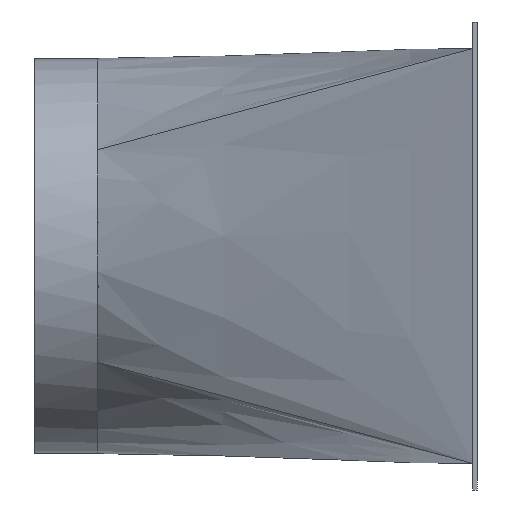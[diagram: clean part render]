
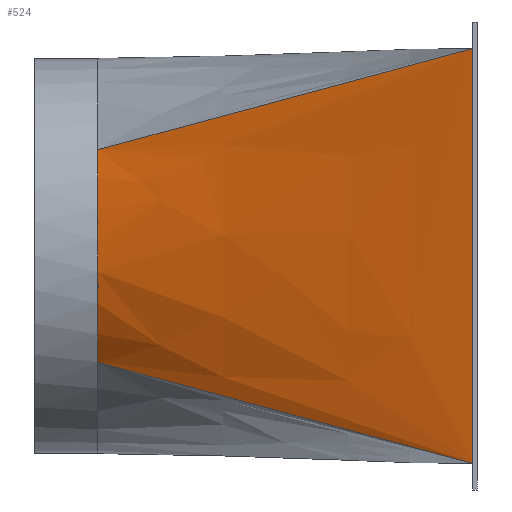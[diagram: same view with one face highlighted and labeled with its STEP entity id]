
A CAD part, left-side view. The second image highlights one B-rep face of the part: STEP entity #524.
In plain terms, the highlighted free-form (B-spline) face has degree [3, 3] with [7, 4] control points.
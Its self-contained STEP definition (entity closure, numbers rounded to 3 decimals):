
#22=B_SPLINE_SURFACE_WITH_KNOTS('',3,3,((#1476,#1477,#1478,#1479),(#1480,
#1481,#1482,#1483),(#1484,#1485,#1486,#1487),(#1488,#1489,#1490,#1491),
(#1492,#1493,#1494,#1495),(#1496,#1497,#1498,#1499),(#1500,#1501,#1502,
#1503)),.UNSPECIFIED.,.F.,.F.,.F.,(4,1,1,1,4),(4,4),(0.,0.286,
0.571,0.857,1.),(0.012,1.),
 .UNSPECIFIED.);
#26=B_SPLINE_CURVE_WITH_KNOTS('',3,(#795,#796,#797,#798,#799,#800,#801,
#802,#803,#804,#805,#806,#807),.UNSPECIFIED.,.F.,.F.,(4,3,3,3,4),(-26.433,
-18.881,-11.328,-3.776,0.),.UNSPECIFIED.);
#93=FACE_OUTER_BOUND('',#131,.T.);
#131=EDGE_LOOP('',(#489,#490,#491,#492));
#161=LINE('',#1209,#195);
#165=LINE('',#1475,#199);
#195=VECTOR('',#667,268.555);
#199=VECTOR('',#691,268.555);
#218=CIRCLE('',#579,125.);
#236=VERTEX_POINT('',#735);
#238=VERTEX_POINT('',#772);
#262=VERTEX_POINT('',#1207);
#270=VERTEX_POINT('',#1430);
#294=EDGE_CURVE('',#236,#238,#26,.T.);
#329=EDGE_CURVE('',#238,#262,#161,.T.);
#343=EDGE_CURVE('',#270,#262,#218,.T.);
#344=EDGE_CURVE('',#236,#270,#165,.T.);
#489=ORIENTED_EDGE('',*,*,#294,.T.);
#490=ORIENTED_EDGE('',*,*,#329,.T.);
#491=ORIENTED_EDGE('',*,*,#343,.F.);
#492=ORIENTED_EDGE('',*,*,#344,.F.);
#524=ADVANCED_FACE('',(#93),#22,.T.);
#579=AXIS2_PLACEMENT_3D('',#1432,#685,#686);
#667=DIRECTION('',(0.378,0.894,-0.241));
#685=DIRECTION('center_axis',(0.,1.,0.));
#686=DIRECTION('ref_axis',(1.,0.,0.));
#691=DIRECTION('',(0.378,0.894,0.241));
#735=CARTESIAN_POINT('',(-205.73,3.,-131.19));
#772=CARTESIAN_POINT('',(-205.73,3.,131.19));
#795=CARTESIAN_POINT('Ctrl Pts',(-205.73,3.,-131.19));
#796=CARTESIAN_POINT('Ctrl Pts',(-205.821,3.,-106.219));
#797=CARTESIAN_POINT('Ctrl Pts',(-205.888,3.,-81.233));
#798=CARTESIAN_POINT('Ctrl Pts',(-205.929,3.,-56.241));
#799=CARTESIAN_POINT('Ctrl Pts',(-205.97,3.,-31.248));
#800=CARTESIAN_POINT('Ctrl Pts',(-205.984,3.,-6.249));
#801=CARTESIAN_POINT('Ctrl Pts',(-205.97,3.,18.748));
#802=CARTESIAN_POINT('Ctrl Pts',(-205.956,3.,43.745));
#803=CARTESIAN_POINT('Ctrl Pts',(-205.915,3.,68.74));
#804=CARTESIAN_POINT('Ctrl Pts',(-205.848,3.,93.723));
#805=CARTESIAN_POINT('Ctrl Pts',(-205.815,3.,106.215));
#806=CARTESIAN_POINT('Ctrl Pts',(-205.775,3.,118.705));
#807=CARTESIAN_POINT('Ctrl Pts',(-205.73,3.,131.19));
#1207=CARTESIAN_POINT('',(-105.395,240.,67.208));
#1209=CARTESIAN_POINT('',(-207.,0.,132.));
#1430=CARTESIAN_POINT('',(-105.395,240.,-67.208));
#1432=CARTESIAN_POINT('Origin',(0.,240.,0.));
#1475=CARTESIAN_POINT('',(-207.,0.,-132.));
#1476=CARTESIAN_POINT('Ctrl Pts',(-205.73,3.,-131.19));
#1477=CARTESIAN_POINT('Ctrl Pts',(-172.285,82.,-109.863));
#1478=CARTESIAN_POINT('Ctrl Pts',(-138.84,161.,-88.536));
#1479=CARTESIAN_POINT('Ctrl Pts',(-105.395,240.,-67.208));
#1480=CARTESIAN_POINT('Ctrl Pts',(-205.821,3.,-106.219));
#1481=CARTESIAN_POINT('Ctrl Pts',(-174.769,82.,-89.418));
#1482=CARTESIAN_POINT('Ctrl Pts',(-143.714,161.,-72.614));
#1483=CARTESIAN_POINT('Ctrl Pts',(-112.662,240.,-55.812));
#1484=CARTESIAN_POINT('Ctrl Pts',(-205.956,3.,-56.247));
#1485=CARTESIAN_POINT('Ctrl Pts',(-178.459,82.,-47.713));
#1486=CARTESIAN_POINT('Ctrl Pts',(-150.962,161.,-39.179));
#1487=CARTESIAN_POINT('Ctrl Pts',(-123.465,240.,-30.645));
#1488=CARTESIAN_POINT('Ctrl Pts',(-205.997,3.,18.75));
#1489=CARTESIAN_POINT('Ctrl Pts',(-179.597,82.,15.935));
#1490=CARTESIAN_POINT('Ctrl Pts',(-153.196,161.,13.121));
#1491=CARTESIAN_POINT('Ctrl Pts',(-126.796,240.,10.306));
#1492=CARTESIAN_POINT('Ctrl Pts',(-205.894,3.,81.237));
#1493=CARTESIAN_POINT('Ctrl Pts',(-176.779,82.,68.669));
#1494=CARTESIAN_POINT('Ctrl Pts',(-147.662,161.,56.101));
#1495=CARTESIAN_POINT('Ctrl Pts',(-118.547,240.,43.533));
#1496=CARTESIAN_POINT('Ctrl Pts',(-205.775,3.,118.705));
#1497=CARTESIAN_POINT('Ctrl Pts',(-173.525,82.,99.639));
#1498=CARTESIAN_POINT('Ctrl Pts',(-141.278,161.,80.575));
#1499=CARTESIAN_POINT('Ctrl Pts',(-109.028,240.,61.51));
#1500=CARTESIAN_POINT('Ctrl Pts',(-205.73,3.,131.19));
#1501=CARTESIAN_POINT('Ctrl Pts',(-172.285,82.,109.863));
#1502=CARTESIAN_POINT('Ctrl Pts',(-138.84,161.,88.536));
#1503=CARTESIAN_POINT('Ctrl Pts',(-105.395,240.,67.208));
